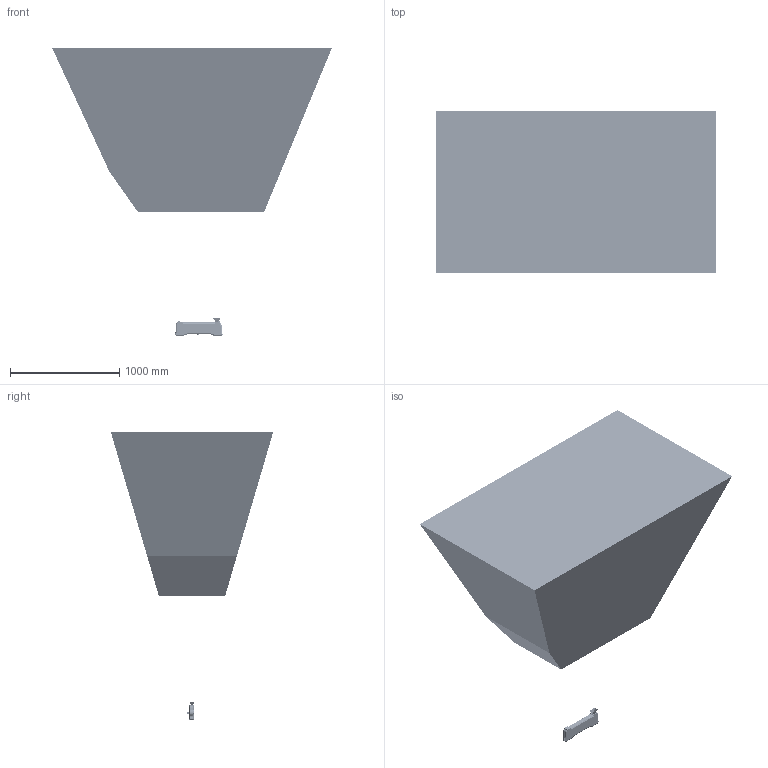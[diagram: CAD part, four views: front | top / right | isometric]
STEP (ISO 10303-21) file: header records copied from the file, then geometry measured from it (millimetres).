
FILE_DESCRIPTION((''),'2;1');
FILE_NAME('DFX1805-A_ASM','2024-08-22T',('Ҧ'),(''),'PRO/ENGINEER BY PARAMETRIC TECHNOLOGY CORPORATION, 2010280','PRO/ENGINEER BY PARAMETRIC TECHNOLOGY CORPORATION, 2010280','');
FILE_SCHEMA(('CONFIG_CONTROL_DESIGN'));
Products named in the file (48): 1805-A; LIGHT_5_12; M6SDMIN_4_14; M6SDMAX_5_14; M6SDJT_4_14; ZHUT_16; M6SD_ASM; 809-43; 808HUAN; 809-KA; M6S_QUDONGBAN1_2; M2X24-3; 1805A-BEIBAN; COMS-BASLER; MVL-HF0624M-10MP; MIRCOUSB3_0__X90__1121_2; MIRCOUSB3_0__X90__1121-16016; MIRCOUSB3_0__X90__1121_3; MIRCOUSB3_0__X90__1121-10186_ASM; ____-USB3_0_MICROB______; MIRCOUSBX90________2305017_ASM; MIRCOUSBX90-2305017_ASM; CHUFAXIAN-BAS; 1805ACOMS_ASM; 40X28X2; PCB-808; 155-0746-000_1; MANIFOLD_SOLID_BREP_53450; 142-63448-1GEN_A00_1; USB3; PMMA; 8-90; 8-M12; 8-M12-A; 8-90_ASM; USBAMX90__NEI; USBAMX90__; UABAMX90___ASM; PCB-808_ASM; 1805A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
Assembly tree (53 placements, depth 6):
  DFX1805-A_ASM
    1805-A
    M6SD_ASM
      LIGHT_5_12
      M6SDMIN_4_14
      M6SDMAX_5_14
      M6SDJT_4_14
      ZHUT_16
    809-43
    808HUAN
    809-KA
    M6S_QUDONGBAN1_2
    M2X24-3
    1805ACOMS_ASM
      1805A-BEIBAN
      COMS-BASLER
      MVL-HF0624M-10MP
      MIRCOUSBX90-2305017_ASM
        MIRCOUSBX90________2305017_ASM
          MIRCOUSB3_0__X90__1121-10186_ASM
            MIRCOUSB3_0__X90__1121_2
            MIRCOUSB3_0__X90__1121-16016
            MIRCOUSB3_0__X90__1121_3
          ____-USB3_0_MICROB______
      CHUFAXIAN-BAS
    40X28X2  x2
    PCB-808_ASM
      PCB-808
      155-0746-000_1  x2
      MANIFOLD_SOLID_BREP_53450
      142-63448-1GEN_A00_1
      USB3
      PMMA  x3
      8-90_ASM
        8-90
        8-M12
        8-M12-A
      UABAMX90___ASM
        USBAMX90__NEI
        USBAMX90__
    1805A
    DC24-IP67
    NTC
    M4X4
    1806COMS_ASM
      1806-BEIBAN
      MV-CS020-10UC
      MVL-MF0828M-8MP
      COMS-BASLER
      MVL-HF0624M-10MP
Bounding box: 2558.96 x 1485.91 x 2632.98 mm (x, y, z)
Volume: 3118405536.5 mm3; surface area: 14342316.4 mm2
Topology: 47 solids, 70 shells, 13196 faces, 34875 edges, 22440 vertices
Faces by surface type: plane 6519, cylinder 3541, bspline 1745, cone 1032, torus 282, sphere 52, extrusion 19, revolution 6
Entity records: 423804 total; most frequent: CARTESIAN_POINT 133372, ORIENTED_EDGE 62778, DIRECTION 57325, EDGE_CURVE 31389, VERTEX_POINT 20172, AXIS2_PLACEMENT_3D 19652, VECTOR 18015, LINE 17996
